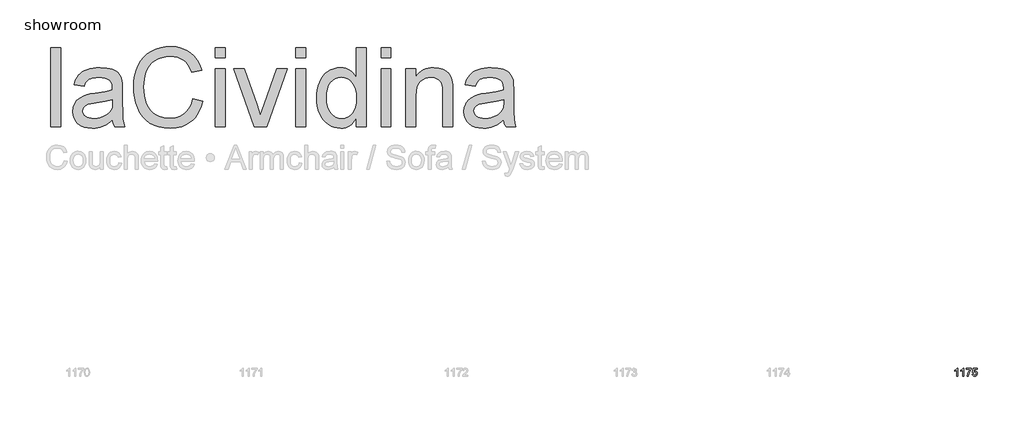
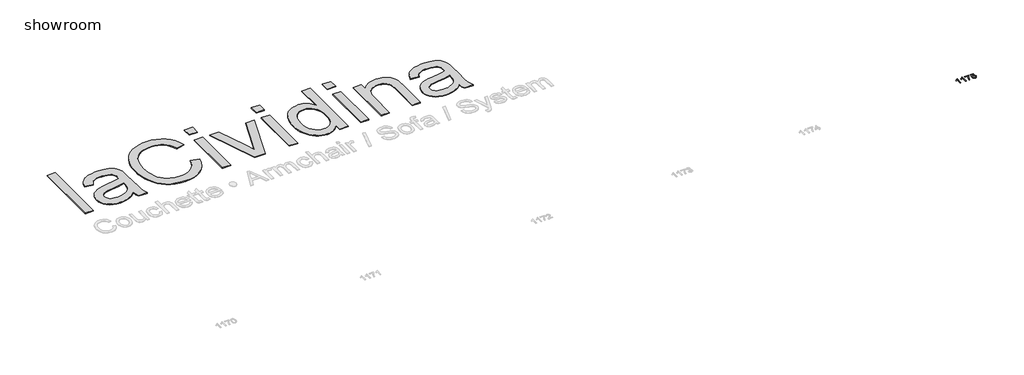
# One storey, part 5 of 5: 2 proxies.
"""IFC4 building model written with IfcOpenShell, lengths in millimetres."""

from ifc_helpers import new_model, si_unit, origin, origin_with_axes, place, context, project, spatial, polyline, outline, extrude, element, save

model = new_model("IFC4")

# Units and contexts
model_context = context("Model", 3, world=origin())
ifc_project = project(units=[si_unit("LENGTHUNIT", "METRE", prefix="MILLI")], contexts=[model_context])

# Site, building, storey
site = spatial("IfcSite", under=ifc_project)
building = spatial("IfcBuilding", under=site)
storey = spatial("IfcBuildingStorey", under=building, Name="showroom", Elevation=0.0)

# Proxies
placement = place(None, origin())
element("IfcBuildingElementProxy", 1, Name="1000mm Arial", ObjectType="1000mm Arial", at=placement, inside=storey, context=model_context, shape_type="SweptSolid", body=[
    extrude(outline(polyline([(-1952.8965336, 4695.1020807), (-1952.8965336, 5699.6651822), (-1827.326146, 5699.6651822), (-1827.326146, 4695.1020807), (-1952.8965336, 4695.1020807)])), origin_with_axes(), (0.0, 0.0, 1.0), 10.0),
    extrude(outline(polyline([(-1168.0816106, 4789.2798714), (-1197.8570596, 4761.3361682), (-1228.0770326, 4737.8377058), (-1258.7415298, 4718.7844841), (-1289.850551, 4704.1765032), (-1321.7566499, 4693.3393128), (-1354.81238, 4685.5984625), (-1389.0177413, 4680.9539523), (-1424.3727339, 4679.4057822), (-1480.283133, 4683.1305874), (-1529.311073, 4694.305003), (-1571.4565541, 4712.929029), (-1606.7195762, 4739.0026654), (-1634.5636447, 4770.8704433), (-1654.4522651, 4806.8768935), (-1666.3854373, 4847.0220163), (-1670.3631613, 4891.3058114), (-1664.3544221, 4943.3611138), (-1656.843498, 4967.5953402), (-1646.3282043, 4990.6339501), (-1618.5224569, 5031.1009696), (-1583.1751285, 5062.7388212), (-1541.6351199, 5086.6511509), (-1495.2513316, 5103.9416046), (-1450.0631599, 5113.5678502), (-1386.6035157, 5122.8262137), (-1258.2126994, 5142.6918415), (-1208.6406006, 5153.9122423), (-1168.8173746, 5165.9910345), (-1168.0816106, 5193.9500661), (-1170.2429173, 5224.3923012), (-1176.7268375, 5249.9907567), (-1187.5333711, 5270.7454326), (-1202.6625181, 5286.6563289), (-1228.8127966, 5302.5365684), (-1260.665246, 5313.8795966), (-1298.2198664, 5320.6854135), (-1341.4766577, 5322.9540191), (-1381.6984225, 5321.4441701), (-1416.27933, 5316.914623), (-1445.2193803, 5309.3653779), (-1468.5185733, 5298.7964348), (-1487.6637655, 5284.3800591), (-1504.1418132, 5265.2885164), (-1517.9527164, 5241.5218066), (-1529.0964752, 5213.0799299), (-1654.6668629, 5228.7762283), (-1645.1095952, 5264.9512912), (-1632.8698547, 5297.4475341), (-1617.9476412, 5326.2649571), (-1600.3429549, 5351.4035601), (-1579.2970391, 5373.3691809), (-1554.0511372, 5392.6676572), (-1524.6052492, 5409.2989891), (-1490.959375, 5423.2631765), (-1453.7956293, 5434.3149647), (-1413.7961265, 5442.2090992), (-1370.9608667, 5446.9455799), (-1325.2898499, 5448.5244068), (-1240.4010795, 5442.9448632), (-1204.5555776, 5435.9704337), (-1173.1093312, 5426.2062324), (-1122.3722727, 5401.0369726), (-1102.8208775, 5386.3140286), (-1087.1475717, 5370.1655418), (-1063.787065, 5331.9977848), (-1048.6425895, 5284.9395463), (-1044.0440646, 5241.5294708), (-1042.5112229, 5175.065457), (-1042.5112229, 5018.8382364), (-1040.9170676, 4882.752555), (-1036.1346017, 4800.6842133), (-1026.6922971, 4746.7588442), (-1011.118626, 4695.1020807), (-1136.6890137, 4695.1020807), (-1156.7998961, 4738.7574108), (-1168.0816106, 4789.2798714)]), holes=[polyline([(-1168.0816106, 5040.4206468), (-1252.4492148, 5019.5126868), (-1370.6619626, 5001.9156646), (-1435.8077326, 4992.2894191), (-1478.6966419, 4981.5595276), (-1506.8089577, 4967.6413254), (-1527.6249472, 4948.450148), (-1540.500817, 4925.4575233), (-1544.7927737, 4900.1349793), (-1542.4551901, 4880.6219052), (-1535.4424396, 4862.7949568), (-1523.7545221, 4846.6541343), (-1507.3914375, 4832.1994375), (-1486.50647, 4820.2892579), (-1461.2529039, 4811.7819868), (-1431.6307391, 4806.6776241), (-1397.6399756, 4804.9761699), (-1362.9364407, 4806.8539009), (-1330.1949431, 4812.487094), (-1299.4154829, 4821.8757491), (-1270.5980599, 4835.0198662), (-1244.6010656, 4850.8311278), (-1222.2828912, 4868.2212162), (-1203.6435368, 4887.1901316), (-1188.6830023, 4907.7378739), (-1179.9917902, 4926.1319736), (-1173.7837815, 4948.450148), (-1168.8173746, 5004.8587206), (-1168.0816106, 5040.4206468)])]), origin_with_axes(), (0.0, 0.0, 1.0), 10.0),
    extrude(outline(polyline([(-147.8222106, 5052.1928707), (-22.2518229, 5019.8192551), (-47.099186, 4941.7286374), (-80.1932372, 4873.4941915), (-121.5339764, 4815.1159174), (-145.296854, 4789.6228448), (-171.1214037, 4766.5938151), (-227.8365446, 4728.4490507), (-290.5604248, 4701.2027904), (-359.2930442, 4684.8550343), (-434.0344029, 4679.4057822), (-510.6075073, 4683.5291262), (-579.6850161, 4695.8991583), (-641.2669293, 4716.5158785), (-695.3532468, 4745.3792867), (-742.6873968, 4782.0601873), (-784.0128076, 4826.1293846), (-819.3294792, 4877.5868787), (-848.6374114, 4936.4326695), (-871.6530288, 5000.1222399), (-888.0927554, 5066.1110728), (-897.9565914, 5134.3991682), (-901.2445368, 5204.986526), (-897.5273958, 5280.7242317), (-886.3759728, 5351.4648737), (-867.7902678, 5417.208452), (-841.7702809, 5477.9549664), (-808.8984918, 5532.7004058), (-769.7573803, 5580.4407589), (-724.3469465, 5621.1760257), (-672.6671904, 5654.9062061), (-616.4732157, 5681.3553887), (-557.5201259, 5700.247662), (-495.8079212, 5711.583026), (-431.3366016, 5715.3614806), (-359.5153062, 5710.4717158), (-293.6567649, 5695.8024212), (-233.7609776, 5671.353597), (-179.8279442, 5637.125243), (-132.746713, 5594.0217359), (-93.4063322, 5542.9474522), (-61.8068016, 5483.902392), (-37.9481214, 5416.8865552), (-163.5185091, 5386.9654863), (-183.2921663, 5436.3459799), (-207.0512119, 5478.5374462), (-234.7956457, 5513.5398852), (-266.5254677, 5541.3532969), (-302.4246191, 5562.5448327), (-342.6770407, 5577.6816439), (-387.2827327, 5586.7637307), (-436.2416949, 5589.7910929), (-492.5736254, 5586.4341697), (-544.0924331, 5576.3634001), (-590.7981181, 5559.5787841), (-632.6906803, 5536.0803216), (-669.2412893, 5506.9256735), (-699.9211149, 5473.1725005), (-724.7301569, 5434.8208025), (-743.6684155, 5391.8705795), (-757.6709239, 5346.2685406), (-767.6727157, 5299.9613944), (-773.6737907, 5252.9491411), (-775.6741491, 5205.2317807), (-773.3059087, 5145.2670154), (-766.2011877, 5089.2263248), (-754.359986, 5037.1097089), (-737.7823036, 4988.9171675), (-716.1998932, 4945.6067268), (-689.3445075, 4908.1364127), (-657.2161466, 4876.5062253), (-619.8148104, 4850.7161646), (-578.9569164, 4830.7049169), (-536.4588817, 4816.4111686), (-492.3207065, 4807.8349196), (-446.5423907, 4804.9761699), (-391.9502355, 4808.8695877), (-341.7266789, 4820.549841), (-295.8717211, 4840.0169299), (-254.3853619, 4867.2708544), (-218.2486201, 4902.1889871), (-188.4425143, 4944.6487007), (-164.9670445, 4994.6499952), (-147.8222106, 5052.1928707)])), origin_with_axes(), (0.0, 0.0, 1.0), 10.0),
    extrude(outline(polyline([(134.7111617, 4695.1020807), (134.7111617, 5432.8281083), (260.2815493, 5432.8281083), (260.2815493, 4695.1020807), (134.7111617, 4695.1020807)])), origin_with_axes(), (0.0, 0.0, 1.0), 10.0),
    extrude(outline(polyline([(134.7111617, 5574.0947945), (134.7111617, 5699.6651822), (260.2815493, 5699.6651822), (260.2815493, 5574.0947945), (134.7111617, 5574.0947945)])), origin_with_axes(), (0.0, 0.0, 1.0), 10.0),
    extrude(outline(polyline([(629.6350725, 4695.1020807), (370.1556386, 5432.8281083), (503.0836662, 5432.8281083), (660.2919054, 4990.8792048), (707.6260555, 4842.2548787), (753.9791869, 4982.5405462), (912.1684448, 5432.8281083), (1045.0964724, 5432.8281083), (788.8053491, 4695.1020807), (629.6350725, 4695.1020807)])), origin_with_axes(), (0.0, 0.0, 1.0), 10.0),
    extrude(outline(polyline([(1154.9705616, 4695.1020807), (1154.9705616, 5432.8281083), (1280.5409493, 5432.8281083), (1280.5409493, 4695.1020807), (1154.9705616, 4695.1020807)])), origin_with_axes(), (0.0, 0.0, 1.0), 10.0),
    extrude(outline(polyline([(1154.9705616, 5574.0947945), (1154.9705616, 5699.6651822), (1280.5409493, 5699.6651822), (1280.5409493, 5574.0947945), (1154.9705616, 5574.0947945)])), origin_with_axes(), (0.0, 0.0, 1.0), 10.0),
    extrude(outline(polyline([(1924.0891862, 4695.1020807), (1924.0891862, 4813.5600831), (1906.2967268, 4782.1176688), (1886.5192374, 4754.8675765), (1864.7567182, 4731.809806), (1841.009169, 4712.9443574), (1815.2765898, 4698.2712308), (1787.5589807, 4687.790426), (1757.8563417, 4681.5019432), (1726.1686728, 4679.4057822), (1684.7206347, 4682.4408087), (1644.9893792, 4691.5458881), (1606.9749064, 4706.7210204), (1570.6772162, 4727.9662056), (1537.2306114, 4754.6453144), (1507.769395, 4786.1222176), (1482.2935668, 4822.3969152), (1460.8031269, 4863.4694071), (1443.7425994, 4908.5579442), (1431.5565083, 4956.8807771), (1424.2448537, 5008.4379059), (1421.8076355, 5063.2293305), (1424.0532485, 5117.0167439), (1430.7900875, 5168.2596401), (1442.0181526, 5216.9580192), (1457.7374436, 5263.1118812), (1477.9402965, 5305.3723254), (1502.6190471, 5342.3904512), (1531.7736952, 5374.1662585), (1565.4042409, 5400.6997474), (1602.322732, 5421.6230359), (1641.3412161, 5436.568242), (1682.4596932, 5445.5353656), (1725.6781635, 5448.5244068), (1757.2853582, 5446.3860927), (1787.1144567, 5439.9711504), (1815.1654588, 5429.2795799), (1841.4383646, 5414.3113812), (1865.6419342, 5395.9249457), (1887.4849277, 5374.9786646), (1906.967345, 5351.4725379), (1924.0891862, 5325.4065657), (1924.0891862, 5699.6651822), (2049.6595739, 5699.6651822), (2049.6595739, 4695.1020807), (1924.0891862, 4695.1020807)]), holes=[polyline([(1547.3780231, 5063.7198398), (1550.9188873, 5002.8277054), (1561.54148, 4950.1362738), (1579.245801, 4905.645545), (1604.0318504, 4869.3555191), (1633.6310226, 4841.1895538), (1665.7747119, 4821.0710072), (1700.4629184, 4808.9998792), (1737.695642, 4804.9761699), (1775.1046424, 4808.8159382), (1809.5859152, 4820.3352432), (1841.1394605, 4839.5340848), (1869.7652782, 4866.4124631), (1893.531988, 4901.1849758), (1910.5082092, 4944.0662209), (1920.693942, 4995.0561983), (1924.0891862, 5054.154908), (1920.6326283, 5118.9481244), (1910.2629545, 5174.5136341), (1892.980165, 5220.851437), (1868.7842596, 5257.9615333), (1839.5299768, 5286.3957458), (1807.0720549, 5306.7058977), (1771.410494, 5318.8919887), (1732.545294, 5322.9540191), (1694.5768065, 5319.0529371), (1659.8886, 5307.3496911), (1628.4806747, 5287.8442812), (1600.3530304, 5260.5367073), (1577.1764647, 5224.8291611), (1560.621775, 5180.1238345), (1550.6889611, 5126.4207274), (1547.3780231, 5063.7198398)])]), origin_with_axes(), (0.0, 0.0, 1.0), 10.0),
    extrude(outline(polyline([(2238.0151554, 4695.1020807), (2238.0151554, 5432.8281083), (2363.5855431, 5432.8281083), (2363.5855431, 4695.1020807), (2238.0151554, 4695.1020807)])), origin_with_axes(), (0.0, 0.0, 1.0), 10.0),
    extrude(outline(polyline([(2238.0151554, 5574.0947945), (2238.0151554, 5699.6651822), (2363.5855431, 5699.6651822), (2363.5855431, 5574.0947945), (2238.0151554, 5574.0947945)])), origin_with_axes(), (0.0, 0.0, 1.0), 10.0),
    extrude(outline(polyline([(2551.9411246, 4695.1020807), (2551.9411246, 5432.8281083), (2677.5115123, 5432.8281083), (2677.5115123, 5329.8211497), (2698.2278672, 5357.6422256), (2721.1361856, 5381.7538247), (2746.2364675, 5402.155947), (2773.5287131, 5418.8485925), (2803.0129221, 5431.8317613), (2834.6890948, 5441.1054532), (2868.5572309, 5446.6696684), (2904.6173307, 5448.5244068), (2966.5134764, 5442.5463244), (2995.5071761, 5435.0737213), (3023.1979605, 5424.6120771), (3048.5358329, 5411.7208789), (3070.4707968, 5396.9596138), (3089.0028523, 5380.3282819), (3104.1319994, 5361.8268833), (3126.9713399, 5319.305856), (3141.7785902, 5269.4885025), (3146.7449972, 5221.8477841), (3148.4004661, 5148.0874441), (3148.4004661, 4695.1020807), (3022.8300785, 4695.1020807), (3022.8300785, 5131.1648723), (3019.2125722, 5196.0960444), (3008.3600533, 5242.2652348), (2999.7378191, 5259.7319654), (2988.3411414, 5275.3439576), (2974.1700204, 5289.1012113), (2957.224456, 5301.0037267), (2917.3399163, 5317.466446), (2871.0174418, 5322.9540191), (2832.8880058, 5319.8730074), (2797.4716996, 5310.6299723), (2764.7685231, 5295.2249137), (2734.7784762, 5273.6578318), (2709.7241795, 5243.4761797), (2691.8282533, 5202.227411), (2681.0906976, 5149.9115256), (2677.5115123, 5086.5285235), (2677.5115123, 4695.1020807), (2551.9411246, 4695.1020807)])), origin_with_axes(), (0.0, 0.0, 1.0), 10.0),
    extrude(outline(polyline([(3791.948703, 4789.2798714), (3762.1732541, 4761.3361682), (3731.953281, 4737.8377058), (3701.2887839, 4718.7844841), (3670.1797626, 4704.1765032), (3638.2736638, 4693.3393128), (3605.2179337, 4685.5984625), (3571.0125723, 4680.9539523), (3535.6575797, 4679.4057822), (3479.7471807, 4683.1305874), (3430.7192406, 4694.305003), (3388.5737595, 4712.929029), (3353.3107375, 4739.0026654), (3325.466669, 4770.8704433), (3305.5780486, 4806.8768935), (3293.6448764, 4847.0220163), (3289.6671523, 4891.3058114), (3295.6758915, 4943.3611138), (3303.1868156, 4967.5953402), (3313.7021093, 4990.6339501), (3341.5078568, 5031.1009696), (3376.8551852, 5062.7388212), (3418.3951938, 5086.6511509), (3464.778982, 5103.9416046), (3509.9671537, 5113.5678502), (3573.4267979, 5122.8262137), (3701.8176142, 5142.6918415), (3751.3897131, 5153.9122423), (3791.2129391, 5165.9910345), (3791.948703, 5193.9500661), (3789.7873963, 5224.3923012), (3783.3034762, 5249.9907567), (3772.4969425, 5270.7454326), (3757.3677955, 5286.6563289), (3731.217517, 5302.5365684), (3699.3650676, 5313.8795966), (3661.8104472, 5320.6854135), (3618.553656, 5322.9540191), (3578.3318912, 5321.4441701), (3543.7509836, 5316.914623), (3514.8109333, 5309.3653779), (3491.5117403, 5298.7964348), (3472.3665481, 5284.3800591), (3455.8885004, 5265.2885164), (3442.0775972, 5241.5218066), (3430.9338384, 5213.0799299), (3305.3634508, 5228.7762283), (3314.9207184, 5264.9512912), (3327.160459, 5297.4475341), (3342.0826724, 5326.2649571), (3359.6873587, 5351.4035601), (3380.7332745, 5373.3691809), (3405.9791764, 5392.6676572), (3435.4250645, 5409.2989891), (3469.0709386, 5423.2631765), (3506.2346843, 5434.3149647), (3546.2341871, 5442.2090992), (3589.0694469, 5446.9455799), (3634.7404638, 5448.5244068), (3719.6292342, 5442.9448632), (3755.4747361, 5435.9704337), (3786.9209824, 5426.2062324), (3837.6580409, 5401.0369726), (3857.2094361, 5386.3140286), (3872.882742, 5370.1655418), (3896.2432487, 5331.9977848), (3911.3877241, 5284.9395463), (3915.9862491, 5241.5294708), (3917.5190907, 5175.065457), (3917.5190907, 5018.8382364), (3919.113246, 4882.752555), (3923.895712, 4800.6842133), (3933.3380165, 4746.7588442), (3948.9116877, 4695.1020807), (3823.3413, 4695.1020807), (3803.2304176, 4738.7574108), (3791.948703, 4789.2798714)]), holes=[polyline([(3791.948703, 5040.4206468), (3707.5810988, 5019.5126868), (3589.368351, 5001.9156646), (3524.2225811, 4992.2894191), (3481.3336718, 4981.5595276), (3453.221356, 4967.6413254), (3432.4053664, 4948.450148), (3419.5294966, 4925.4575233), (3415.23754, 4900.1349793), (3417.5751235, 4880.6219052), (3424.587874, 4862.7949568), (3436.2757916, 4846.6541343), (3452.6388762, 4832.1994375), (3473.5238436, 4820.2892579), (3498.7774097, 4811.7819868), (3528.3995745, 4806.6776241), (3562.3903381, 4804.9761699), (3597.0938729, 4806.8539009), (3629.8353705, 4812.487094), (3660.6148308, 4821.8757491), (3689.4322537, 4835.0198662), (3715.429248, 4850.8311278), (3737.7474224, 4868.2212162), (3756.3867768, 4887.1901316), (3771.3473113, 4907.7378739), (3780.0385234, 4926.1319736), (3786.2465321, 4948.450148), (3791.2129391, 5004.8587206), (3791.948703, 5040.4206468)])]), origin_with_axes(), (0.0, 0.0, 1.0), 10.0),
])
element("IfcBuildingElementProxy", 2, Name="100mm Arial", ObjectType="100mm Arial", at=placement, inside=storey, context=model_context, shape_type="SweptSolid", body=[
    extrude(outline(polyline([(9551.8890391, 1535.1020807), (9539.3320004, 1535.1020807), (9539.3320004, 1613.3873692), (9527.4371492, 1604.9138206), (9514.2179228, 1598.5739876), (9514.2179228, 1610.4443133), (9532.6242853, 1622.1920117), (9543.7956352, 1635.5583908), (9551.8890391, 1635.5583908), (9551.8890391, 1535.1020807)])), origin_with_axes(), (0.0, 0.0, 1.0), 2.0),
    extrude(outline(polyline([(9628.8009016, 1535.1020807), (9616.2438628, 1535.1020807), (9616.2438628, 1613.3873692), (9604.3490116, 1604.9138206), (9591.1297853, 1598.5739876), (9591.1297853, 1610.4443133), (9609.5361478, 1622.1920117), (9620.7074977, 1635.5583908), (9628.8009016, 1635.5583908), (9628.8009016, 1535.1020807)])), origin_with_axes(), (0.0, 0.0, 1.0), 2.0),
    extrude(outline(polyline([(9658.6238687, 1621.4317222), (9658.6238687, 1633.988761), (9724.5483222, 1633.988761), (9724.5483222, 1623.8352179), (9705.8476541, 1596.8204167), (9691.5370445, 1562.3989247), (9686.8772059, 1535.1020807), (9674.3201671, 1535.1020807), (9679.3110995, 1563.4289943), (9693.0085725, 1595.4469906), (9711.9912834, 1621.4317222), (9658.6238687, 1621.4317222)])), origin_with_axes(), (0.0, 0.0, 1.0), 2.0),
    extrude(outline(polyline([(9735.5357311, 1561.7857881), (9748.0927699, 1563.3554179), (9754.4203402, 1550.4182344), (9767.5414647, 1546.0894896), (9776.5423108, 1547.5947401), (9783.2868141, 1552.1104916), (9787.4990629, 1559.1155779), (9788.9031459, 1568.0888329), (9783.6424334, 1583.0003164), (9777.0358859, 1587.1022007), (9767.7376684, 1588.4694954), (9756.7134713, 1586.2867289), (9749.6623997, 1580.6213462), (9737.105361, 1582.1909761), (9748.0927699, 1633.988761), (9796.7512951, 1633.988761), (9796.7512951, 1621.4317222), (9758.246313, 1621.4317222), (9752.8752358, 1593.7669962), (9761.8454251, 1599.2116497), (9771.2448101, 1601.0265342), (9782.9771801, 1598.7763227), (9792.7168559, 1592.0256881), (9799.2743525, 1581.7372549), (9801.4601847, 1568.8736478), (9799.492016, 1556.3166091), (9793.58751, 1545.5744548), (9782.28127, 1536.5429518), (9767.4924138, 1533.5324508), (9755.1591699, 1535.466897), (9745.3336549, 1541.2702355), (9738.5983487, 1550.2680159), (9735.5357311, 1561.7857881)])), origin_with_axes(), (0.0, 0.0, 1.0), 2.0),
])

save(model, "model.ifc")
